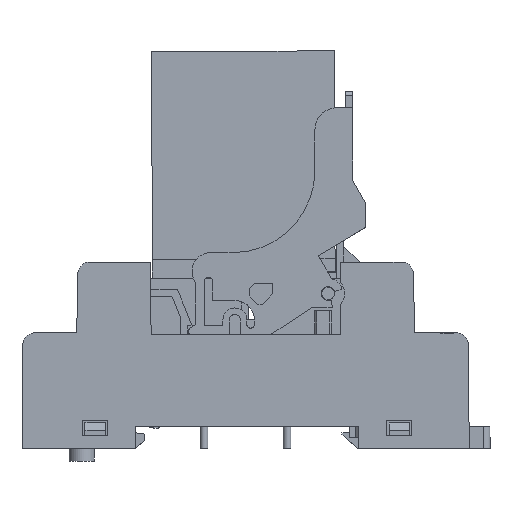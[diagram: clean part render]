
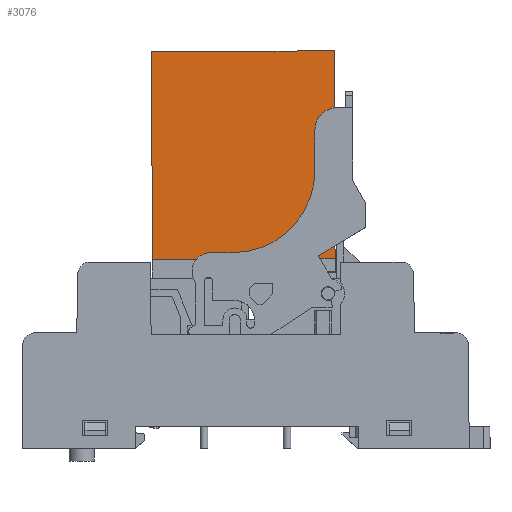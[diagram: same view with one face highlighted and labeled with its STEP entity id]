
A CAD part, top view. The second image highlights one B-rep face of the part: STEP entity #3076.
In plain terms, the highlighted planar face has unit normal (0, 0, 1) as drawn and (0, 1, 0) by its records, which use the part's own axes.
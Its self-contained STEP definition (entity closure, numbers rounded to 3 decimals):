
#3076=ADVANCED_FACE('',(#6654),#6655,.F.);
#6654=FACE_OUTER_BOUND('',#11578,.T.);
#6655=PLANE('',#11579);
#11578=EDGE_LOOP('',(#26336,#26337,#26338,#26339));
#11579=AXIS2_PLACEMENT_3D('',#26340,#26341,#26342);
#26336=ORIENTED_EDGE('',*,*,#31303,.T.);
#26337=ORIENTED_EDGE('',*,*,#31304,.F.);
#26338=ORIENTED_EDGE('',*,*,#31301,.F.);
#26339=ORIENTED_EDGE('',*,*,#31273,.T.);
#26340=CARTESIAN_POINT('',(-14.5,6.25,33.0));
#26341=DIRECTION('',(0.0,-1.0,0.0));
#26342=DIRECTION('',(0.0,0.0,-1.0));
#31273=EDGE_CURVE('',#39291,#39289,#39292,.T.);
#31301=EDGE_CURVE('',#39291,#39330,#39331,.T.);
#31303=EDGE_CURVE('',#39289,#39333,#39334,.T.);
#31304=EDGE_CURVE('',#39330,#39333,#39335,.T.);
#39289=VERTEX_POINT('',#53636);
#39291=VERTEX_POINT('',#53639);
#39292=LINE('',#53640,#53641);
#39330=VERTEX_POINT('',#53705);
#39331=LINE('',#53706,#53707);
#39333=VERTEX_POINT('',#53710);
#39334=LINE('',#53711,#53712);
#39335=LINE('',#53713,#53714);
#53636=CARTESIAN_POINT('',(14.5,6.25,0.0));
#53639=CARTESIAN_POINT('',(14.5,6.25,33.0));
#53640=CARTESIAN_POINT('',(14.5,6.25,33.0));
#53641=VECTOR('',#59393,1.0);
#53705=CARTESIAN_POINT('',(-14.5,6.25,33.0));
#53706=CARTESIAN_POINT('',(-14.5,6.25,33.0));
#53707=VECTOR('',#59423,1.0);
#53710=CARTESIAN_POINT('',(-14.5,6.25,0.0));
#53711=CARTESIAN_POINT('',(-14.5,6.25,0.0));
#53712=VECTOR('',#59425,1.0);
#53713=CARTESIAN_POINT('',(-14.5,6.25,33.0));
#53714=VECTOR('',#59426,1.0);
#59393=DIRECTION('',(0.0,0.0,-1.0));
#59423=DIRECTION('',(-1.0,0.0,0.0));
#59425=DIRECTION('',(-1.0,0.0,0.0));
#59426=DIRECTION('',(0.0,0.0,-1.0));
